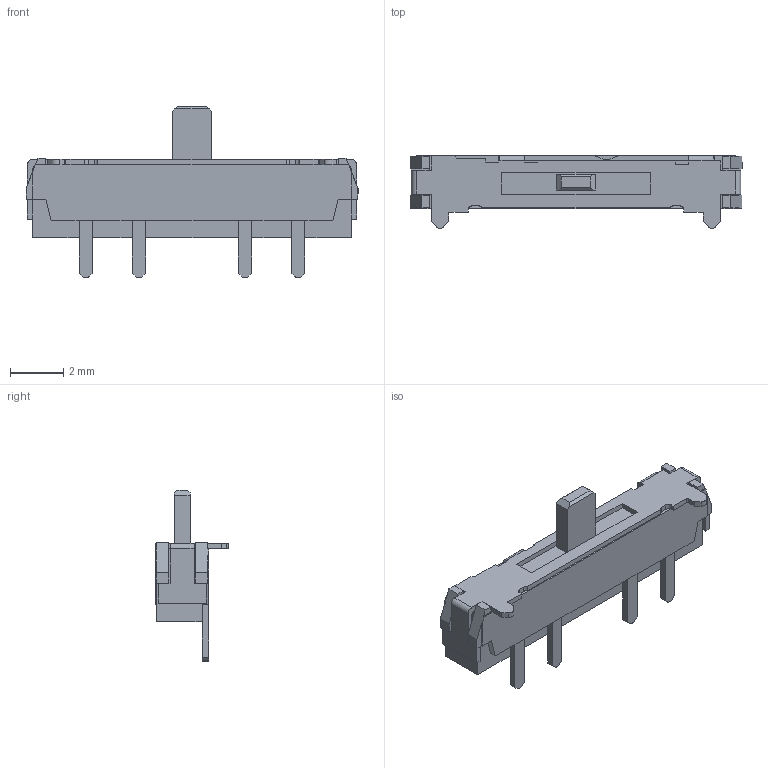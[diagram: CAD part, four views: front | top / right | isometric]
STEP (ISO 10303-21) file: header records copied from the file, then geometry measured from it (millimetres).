
FILE_DESCRIPTION (( 'STEP AP214' ), '1' );
FILE_NAME ('SSSS711403.STEP', '2011-06-03T07:42:58', ( '' ), ( '' ), 'SwSTEP 2.0', 'SolidWorks 2007', '' );
FILE_SCHEMA (( 'AUTOMOTIVE_DESIGN' ));
Length unit declared in the file: millimetre
Products named in the file (1): SSSS711403
Bounding box: 12.5 x 2.74 x 6.45 mm (x, y, z)
Volume: 66.9 mm3; surface area: 182.4 mm2
Topology: 1 solids, 1 shells, 265 faces, 723 edges, 463 vertices
Faces by surface type: plane 211, cylinder 54
Entity records: 11175 total; most frequent: CARTESIAN_POINT 1458, ORIENTED_EDGE 1446, DIRECTION 1361, EDGE_CURVE 723, VECTOR 613, LINE 613, VERTEX_POINT 463, AXIS2_PLACEMENT_3D 374
